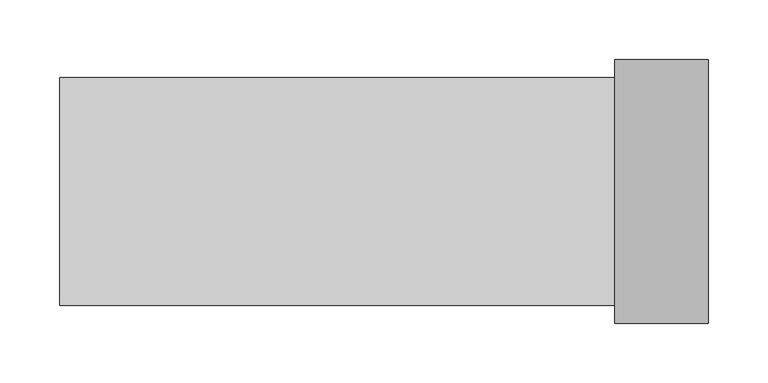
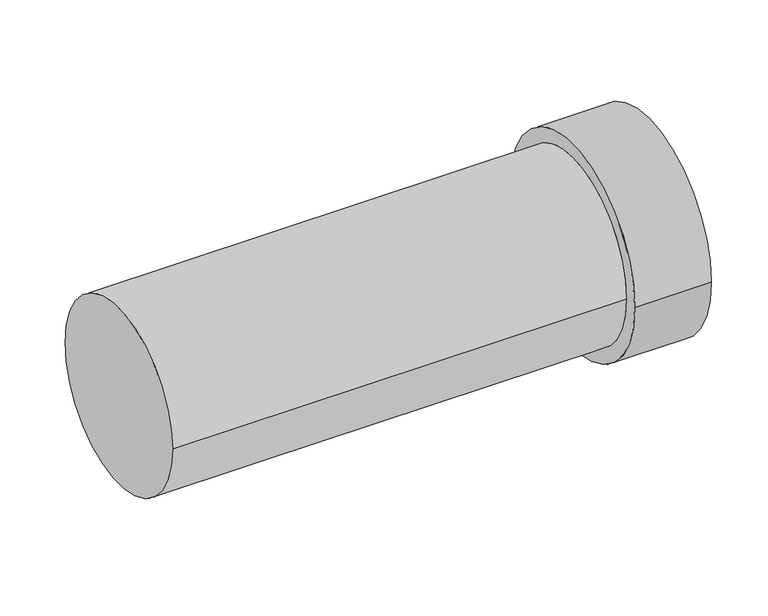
"""IFC4 building model written with IfcOpenShell, lengths in millimetres: duct segment geometry, NLRS_57_DUF_UN_duct EPP_M&G : ø125 - ø180."""

import ifcopenshell
import ifcopenshell.guid

model = None  # the IFC model being written
_history = None  # IfcOwnerHistory: only IFC2X3 demands one
_inside = {}  # id of a spatial element -> (the spatial element, [elements in it])
_under = {}  # id of a project, library or spatial element -> (it, [spatial elements below it])
_declared = {}  # id of a project -> (the project, [libraries it declares])
_typed = {}  # id of a type object -> (the type object, [elements of that type])
_made_of = {}  # id of a material, layer set ... -> (it, [elements and type objects made of it])


def new_model(schema):
    """Start an empty IFC model of exactly this schema.

    Asked for "IFC4X3", IfcOpenShell would pick the latest addendum, in which some entities
    have other attributes; the version numbers below select the first issue.
    IFC2X3 requires an IfcOwnerHistory on every rooted entity: one is made here for all.
    """
    global model, _history
    if schema == "IFC4X3":
        model = ifcopenshell.file(schema_version=(4, 3, 0, 0))
    else:
        model = ifcopenshell.file(schema=schema)
    _inside.clear()
    _under.clear()
    _declared.clear()
    _typed.clear()
    _made_of.clear()
    _history = None
    if model.schema == "IFC2X3":
        org = make("IfcOrganization", Name="unknown")
        user = make(
            "IfcPersonAndOrganization",
            ThePerson=make("IfcPerson", FamilyName="unknown"),
            TheOrganization=org,
        )
        app = make(
            "IfcApplication",
            ApplicationDeveloper=org,
            Version="unknown",
            ApplicationFullName="unknown",
            ApplicationIdentifier="unknown",
        )
        _history = make(
            "IfcOwnerHistory",
            OwningUser=user,
            OwningApplication=app,
            ChangeAction="ADDED",
            CreationDate=0,
        )
    return model


def make(cls, **values):
    """One entity of the class cls with the attributes given. An attribute that is None is left unset."""
    return model.create_entity(
        cls, **{name: value for name, value in values.items() if value is not None}
    )


def rooted(cls, **values):
    """An entity with a GlobalId (a new one), such as an element, a storey or a relation."""
    return make(cls, GlobalId=ifcopenshell.guid.new(), OwnerHistory=_history, **values)


def si_unit(unit_type, name, prefix=None):
    """IfcSIUnit, for example si_unit("LENGTHUNIT", "METRE", prefix="MILLI")."""
    return make("IfcSIUnit", UnitType=unit_type, Prefix=prefix, Name=name)


def assignment(units):
    """IfcUnitAssignment: the units of a project."""
    return None if units is None else make("IfcUnitAssignment", Units=units)


def point(xyz):
    """IfcCartesianPoint."""
    return None if xyz is None else make("IfcCartesianPoint", Coordinates=xyz)


def direction(xyz):
    """IfcDirection."""
    return None if xyz is None else make("IfcDirection", DirectionRatios=xyz)


def frame(location, z_axis=None, x_axis=None):
    """IfcAxis2Placement3D, a coordinate frame: its origin and axes. An axis left out is left unset."""
    return make(
        "IfcAxis2Placement3D",
        Location=point(location),
        Axis=direction(z_axis),
        RefDirection=direction(x_axis),
    )


def origin():
    """The frame at (0, 0, 0) with its axes left unset."""
    return frame((0.0, 0.0, 0.0))


def place(relative_to, where):
    """IfcLocalPlacement: puts the frame where relative to a parent placement (None: the world)."""
    return make(
        "IfcLocalPlacement", PlacementRelTo=relative_to, RelativePlacement=where
    )


def context(
    kind, dimensions, precision=None, world=None, true_north=None, identifier=None
):
    """IfcGeometricRepresentationContext, for example the 3D "Model" context."""
    return make(
        "IfcGeometricRepresentationContext",
        ContextIdentifier=identifier,
        ContextType=kind,
        CoordinateSpaceDimension=dimensions,
        Precision=precision,
        WorldCoordinateSystem=world,
        TrueNorth=true_north,
    )


def project(units=None, contexts=None):
    """IfcProject with its units and contexts."""
    return rooted(
        "IfcProject",
        Name="project",
        RepresentationContexts=contexts,
        UnitsInContext=assignment(units),
    )


def spatial(cls, under=None, at=None, **own):
    """A site, building, storey or space (cls), placed at a placement, below another one or the project."""
    s = rooted(cls, ObjectPlacement=at, **own)
    if under is not None:
        _under.setdefault(under.id(), (under, []))[1].append(s)
    return s


def polyline(points):
    """IfcPolyline through the points."""
    return make("IfcPolyline", Points=[point(p) for p in points])


def circle_curve(where, radius):
    """IfcCircle in the frame where."""
    return make("IfcCircle", Position=where, Radius=radius)


def shape(context_of_items, identifier, shape_type, items):
    """IfcShapeRepresentation: the items that make up one representation, for example the "Body"."""
    return make(
        "IfcShapeRepresentation",
        ContextOfItems=context_of_items,
        RepresentationIdentifier=identifier,
        RepresentationType=shape_type,
        Items=items,
    )


def source(mapping_origin, context_of_items, identifier, shape_type, items):
    """IfcRepresentationMap: a shape defined once, which mapped items show again and again."""
    return make(
        "IfcRepresentationMap",
        MappingOrigin=mapping_origin,
        MappedRepresentation=shape(context_of_items, identifier, shape_type, items),
    )


def transform(
    local_origin,
    x_axis=None,
    y_axis=None,
    z_axis=None,
    scale=None,
    scale2=None,
    scale3=None,
    uniform=True,
):
    """IfcCartesianTransformationOperator3D, or its non-uniform kind. x_axis, y_axis, z_axis: its Axis1, 2, 3."""
    if uniform:
        return make(
            "IfcCartesianTransformationOperator3D",
            Axis1=direction(x_axis),
            Axis2=direction(y_axis),
            LocalOrigin=point(local_origin),
            Scale=scale,
            Axis3=direction(z_axis),
        )
    return make(
        "IfcCartesianTransformationOperator3DnonUniform",
        Axis1=direction(x_axis),
        Axis2=direction(y_axis),
        LocalOrigin=point(local_origin),
        Scale=scale,
        Axis3=direction(z_axis),
        Scale2=scale2,
        Scale3=scale3,
    )


def mapped(mapping_source, mapping_target):
    """IfcMappedItem: shows the shape of a source again, moved by a transform."""
    return make(
        "IfcMappedItem", MappingSource=mapping_source, MappingTarget=mapping_target
    )


def made_of(thing, what):
    """Note that an element or type object is made of a material, layer set ...; save() writes the relation."""
    if what is not None:
        _made_of.setdefault(what.id(), (what, []))[1].append(thing)
    return thing


def element(
    cls,
    number,
    at=None,
    inside=None,
    cuts=None,
    type_object=None,
    material=None,
    context=None,
    identifier="Body",
    shape_type=None,
    held_by="IfcProductDefinitionShape",
    body=None,
    shapes=None,
    **own,
):
    """One element of the class cls, such as IfcWall. Its Tag is "e" and its number.

    at: its placement. inside: the storey or other place that contains it. cuts: it is an
    opening in that element (IfcRelVoidsElement). A single representation is given by context,
    identifier, shape_type and body (its items); several are given by shapes. held_by: the class
    of the entity that holds the representations. save() writes the other relations.
    """
    e = rooted(cls, Tag="e%d" % number, ObjectPlacement=at, **own)
    if body is not None:
        shapes = [shape(context, identifier, shape_type, body)]
    if shapes is not None:
        e.Representation = make(held_by, Representations=shapes)
    if inside is not None:
        _inside.setdefault(inside.id(), (inside, []))[1].append(e)
    if cuts is not None:
        rooted(
            "IfcRelVoidsElement", RelatingBuildingElement=cuts, RelatedOpeningElement=e
        )
    if type_object is not None:
        _typed.setdefault(type_object.id(), (type_object, []))[1].append(e)
    return made_of(e, material)


def aggregate(whole, parts):
    """IfcRelAggregates: a whole, such as a stair, and the parts it consists of."""
    return rooted("IfcRelAggregates", RelatingObject=whole, RelatedObjects=parts)


def save(model, path):
    """Write the relations noted so far, then the file.

    IfcRelAggregates (storeys below a building ...), IfcRelContainedInSpatialStructure (elements
    in a storey), IfcRelDefinesByType, IfcRelAssociatesMaterial and IfcRelDeclares: one each for
    every whole, place, type object, material and project.
    """
    for whole, parts in _under.values():
        aggregate(whole, parts)
    for where, things in _inside.values():
        rooted(
            "IfcRelContainedInSpatialStructure",
            RelatedElements=things,
            RelatingStructure=where,
        )
    for kind, things in _typed.values():
        rooted("IfcRelDefinesByType", RelatedObjects=things, RelatingType=kind)
    for what, things in _made_of.values():
        rooted("IfcRelAssociatesMaterial", RelatedObjects=things, RelatingMaterial=what)
    for by, libraries in _declared.values():
        rooted("IfcRelDeclares", RelatingContext=by, RelatedDefinitions=libraries)
    model.write(path)


def plane_surface(at):
    """IfcPlane: the flat surface through the origin of the frame at, square to its z axis."""
    return make("IfcPlane", Position=at)


def cylinder_surface(at, radius):
    """IfcCylindricalSurface: all points at the distance radius from the z axis of the frame at."""
    return make("IfcCylindricalSurface", Position=at, Radius=radius)


def revolved_surface(curve, axis_point, axis_direction):
    """IfcSurfaceOfRevolution: the curve turned about the line through axis_point along axis_direction."""
    return make(
        "IfcSurfaceOfRevolution",
        SweptCurve=make("IfcArbitraryOpenProfileDef", ProfileType="CURVE", Curve=curve),
        AxisPosition=make("IfcAxis1Placement", Location=point(axis_point), Axis=direction(axis_direction)),
    )


def advanced_brep(points, edges, surfaces, faces):
    """IfcAdvancedBrep: a solid bounded by faces that lie on surfaces and meet in shared edges.

    An edge is (start, end): straight between two places in points (the first is 0);
    or (start, end, curve); or (start, end, curve, False) where it runs against its curve.
    A face is (place in surfaces, loops), or (place, loops, False) where it looks against
    its surface's normal. A loop lists edges by number (the first is 1), with a minus sign
    where the edge is run from its end to its start. The first loop is the outer one.
    """
    corners = [point(p) for p in points]
    vertices = [make("IfcVertexPoint", VertexGeometry=c) for c in corners]
    made = []
    for start, end, *more in edges:
        made.append(
            make(
                "IfcEdgeCurve",
                EdgeStart=vertices[start],
                EdgeEnd=vertices[end],
                EdgeGeometry=more[0] if more else make("IfcPolyline", Points=[corners[start], corners[end]]),
                SameSense=more[1] if len(more) > 1 else True,
            )
        )
    hull = []
    for where, loops, *sense in faces:
        bounds = []
        for j, loop in enumerate(loops):
            ring = [make("IfcOrientedEdge", EdgeElement=made[abs(k) - 1], Orientation=k > 0) for k in loop]
            bounds.append(
                make(
                    "IfcFaceOuterBound" if j == 0 else "IfcFaceBound",
                    Bound=make("IfcEdgeLoop", EdgeList=ring),
                    Orientation=True,
                )
            )
        hull.append(make("IfcAdvancedFace", Bounds=bounds, FaceSurface=surfaces[where], SameSense=sense[0] if sense else True))
    return make("IfcAdvancedBrep", Outer=make("IfcClosedShell", CfsFaces=hull))


def duct_segment_d6d52856(model_context):
    return source(origin(), model_context, "Body", "AdvancedBrep", [
        advanced_brep(
        [(504.0, -95.0, 0.0), (504.0, 95.0, 0.0), (0.0, 95.0, 0.0), (0.0, -95.0, 0.0), (463.0, -95.0, 0.0), (463.0, 95.0, 0.0), (463.0, -110.0, 0.0), (463.0, 110.0, 0.0), (541.0, -110.0, 0.0), (541.0, 110.0, 0.0), (541.0, -95.0, 0.0), (541.0, 95.0, 0.0)],
        [
            (0, 1, circle_curve(frame((504.0, 0.0, 0.0), z_axis=(1.0, 0.0, 0.0), x_axis=(0.0, 1.0, 0.0)), 95.0)),
            (1, 0, circle_curve(frame((504.0, 0.0, 0.0), z_axis=(1.0, 0.0, 0.0), x_axis=(0.0, 1.0, 0.0)), 95.0)),
            (2, 3, circle_curve(frame((0.0, 0.0, 0.0), z_axis=(-1.0, 0.0, 0.0), x_axis=(0.0, -1.0, 0.0)), 95.0)),
            (3, 2, circle_curve(frame((0.0, 0.0, 0.0), z_axis=(-1.0, 0.0, 0.0), x_axis=(0.0, -1.0, 0.0)), 95.0)),
            (3, 4),
            (4, 5, circle_curve(frame((463.0, 0.0, 0.0), z_axis=(-1.0, 0.0, 0.0), x_axis=(0.0, -1.0, 0.0)), 95.0)),
            (5, 2),
            (5, 4, circle_curve(frame((463.0, 0.0, 0.0), z_axis=(-1.0, 0.0, 0.0), x_axis=(0.0, -1.0, 0.0)), 95.0)),
            (6, 7, circle_curve(frame((463.0, 0.0, 0.0), z_axis=(-1.0, 0.0, 0.0), x_axis=(0.0, 1.0, 0.0)), 110.0)),
            (7, 6, circle_curve(frame((463.0, 0.0, 0.0), z_axis=(-1.0, 0.0, 0.0), x_axis=(0.0, 1.0, 0.0)), 110.0)),
            (8, 9, circle_curve(frame((541.0, 0.0, 0.0), z_axis=(1.0, 0.0, 0.0), x_axis=(0.0, 1.0, 0.0)), 110.0)),
            (9, 8, circle_curve(frame((541.0, 0.0, 0.0), z_axis=(1.0, 0.0, 0.0), x_axis=(0.0, 1.0, 0.0)), 110.0)),
            (10, 11, circle_curve(frame((541.0, 0.0, 0.0), z_axis=(-1.0, 0.0, 0.0), x_axis=(0.0, 1.0, 0.0)), 95.0)),
            (11, 10, circle_curve(frame((541.0, 0.0, 0.0), z_axis=(-1.0, 0.0, 0.0), x_axis=(0.0, 1.0, 0.0)), 95.0)),
            (11, 1),
            (0, 10),
            (6, 8),
            (9, 7),
        ],
        [
            plane_surface(frame((504.0, 0.0, 0.0), z_axis=(1.0, 0.0, 0.0), x_axis=(0.0, 0.0, 1.0))),
            plane_surface(frame((0.0, 0.0, 0.0), z_axis=(-1.0, 0.0, 0.0), x_axis=(0.0, 0.0, 1.0))),
            cylinder_surface(frame((504.0, 0.0, 0.0), z_axis=(1.0, 0.0, 0.0), x_axis=(0.0, -1.0, 0.0)), 95.0),
            plane_surface(frame((463.0, 0.0, 0.0), z_axis=(-1.0, 0.0, 0.0), x_axis=(0.0, 0.0, 1.0))),
            plane_surface(frame((541.0, 0.0, 0.0), z_axis=(1.0, 0.0, 0.0), x_axis=(0.0, 0.0, 1.0))),
            revolved_surface(polyline([(541.0, 95.0, 0.0), (504.0, 95.0, 0.0)]), (463.0, 0.0, 0.0), (1.0, 0.0, 0.0)),
            cylinder_surface(frame((463.0, 0.0, 0.0), z_axis=(-1.0, 0.0, 0.0), x_axis=(0.0, 1.0, 0.0)), 110.0),
        ],
        [
            (0, [[1, 2]]),
            (1, [[3, 4]]),
            (2, [[-4, 5, 6, 7]]),
            (2, [[-3, -7, 8, -5]]),
            (3, [[9, 10], [-6, -8]]),
            (4, [[11, 12], [13, 14]]),
            (5, [[-14, 15, -1, 16]]),
            (5, [[-13, -16, -2, -15]]),
            (6, [[-9, 17, -12, 18]]),
            (6, [[-10, -18, -11, -17]]),
        ],
    ),
    ])


if __name__ == "__main__":
    model = new_model("IFC4")
    model_context = context("Model", 3, world=origin())
    ifc_project = project(units=[si_unit("LENGTHUNIT", "METRE", prefix="MILLI")], contexts=[model_context])
    site = spatial("IfcSite", under=ifc_project)
    building = spatial("IfcBuilding", under=site)
    placement = place(None, origin())
    duct_segment_shape = duct_segment_d6d52856(model_context)
    element("IfcDuctSegment", 1, ObjectType="NLRS_57_DUF_UN_duct EPP_M&G : ø125 - ø180", at=placement, inside=building, context=model_context, shape_type="MappedRepresentation", body=[
        mapped(duct_segment_shape, transform((0.0, 0.0, 0.0), x_axis=(1.0, 0.0, 0.0), y_axis=(0.0, 1.0, 0.0), z_axis=(0.0, 0.0, 1.0))),
    ])
    save(model, "model.ifc")
